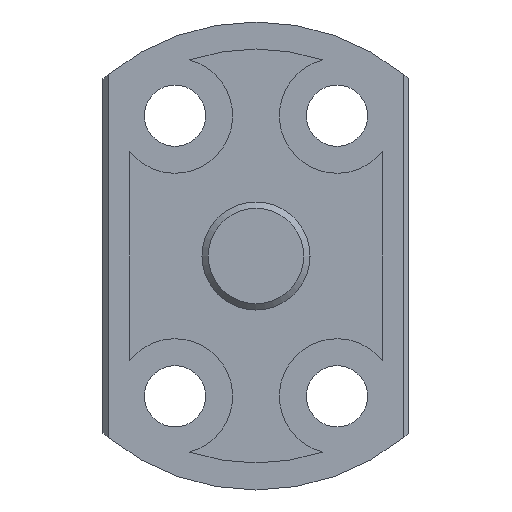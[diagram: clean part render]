
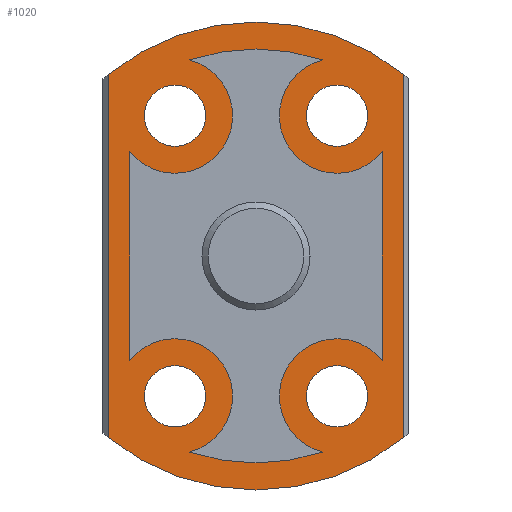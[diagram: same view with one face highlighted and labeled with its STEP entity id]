
A CAD part, left-side view. The second image highlights one B-rep face of the part: STEP entity #1020.
In plain terms, the highlighted planar face has unit normal (-1, 0, 0).
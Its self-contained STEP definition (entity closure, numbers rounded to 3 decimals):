
#238=CARTESIAN_POINT('',(150.0,-8.2,-10.088));
#239=VERTEX_POINT('',#238);
#257=CARTESIAN_POINT('',(150.0,-8.2,10.088));
#258=VERTEX_POINT('',#257);
#266=CARTESIAN_POINT('',(150.0,-8.2,10.088));
#267=DIRECTION('',(0.0,0.0,-1.0));
#268=VECTOR('',#267,20.175);
#269=LINE('',#266,#268);
#270=EDGE_CURVE('',#258,#239,#269,.T.);
#312=CARTESIAN_POINT('',(150.0,8.2,-10.088));
#313=VERTEX_POINT('',#312);
#314=CARTESIAN_POINT('',(150.0,0.0,0.0));
#315=DIRECTION('',(1.0,0.0,0.0));
#316=DIRECTION('',(0.0,1.0,0.0));
#317=AXIS2_PLACEMENT_3D('',#314,#315,#316);
#318=CIRCLE('',#317,13.0);
#319=EDGE_CURVE('',#239,#313,#318,.T.);
#372=CARTESIAN_POINT('',(150.0,8.2,10.088));
#373=VERTEX_POINT('',#372);
#390=CARTESIAN_POINT('',(150.0,8.2,-10.088));
#391=DIRECTION('',(0.0,0.0,1.0));
#392=VECTOR('',#391,20.175);
#393=LINE('',#390,#392);
#394=EDGE_CURVE('',#313,#373,#393,.T.);
#457=CARTESIAN_POINT('',(150.0,0.0,0.0));
#458=DIRECTION('',(1.0,0.0,0.0));
#459=DIRECTION('',(0.0,1.0,0.0));
#460=AXIS2_PLACEMENT_3D('',#457,#458,#459);
#461=CIRCLE('',#460,13.0);
#462=EDGE_CURVE('',#373,#258,#461,.T.);
#573=CARTESIAN_POINT('',(150.0,-3.693,-10.891));
#574=VERTEX_POINT('',#573);
#583=CARTESIAN_POINT('',(150.0,-7.,-5.797));
#584=VERTEX_POINT('',#583);
#585=CARTESIAN_POINT('',(150.0,-4.5,-7.794));
#586=DIRECTION('',(-1.0,0.0,0.0));
#587=DIRECTION('',(0.0,1.0,0.0));
#588=AXIS2_PLACEMENT_3D('',#585,#586,#587);
#589=CIRCLE('',#588,3.2);
#590=EDGE_CURVE('',#584,#574,#589,.T.);
#615=CARTESIAN_POINT('',(150.0,-7.,5.797));
#616=VERTEX_POINT('',#615);
#625=CARTESIAN_POINT('',(150.0,-3.693,10.891));
#626=VERTEX_POINT('',#625);
#627=CARTESIAN_POINT('',(150.0,-4.5,7.794));
#628=DIRECTION('',(-1.0,0.0,0.0));
#629=DIRECTION('',(0.0,1.0,0.0));
#630=AXIS2_PLACEMENT_3D('',#627,#628,#629);
#631=CIRCLE('',#630,3.2);
#632=EDGE_CURVE('',#626,#616,#631,.T.);
#658=CARTESIAN_POINT('',(150.0,3.693,10.891));
#659=VERTEX_POINT('',#658);
#660=CARTESIAN_POINT('',(150.0,0.0,0.0));
#661=DIRECTION('',(1.0,0.0,0.0));
#662=DIRECTION('',(0.0,1.0,0.0));
#663=AXIS2_PLACEMENT_3D('',#660,#661,#662);
#664=CIRCLE('',#663,11.5);
#665=EDGE_CURVE('',#659,#626,#664,.T.);
#692=CARTESIAN_POINT('',(150.0,7.,5.797));
#693=VERTEX_POINT('',#692);
#708=CARTESIAN_POINT('',(150.0,4.5,7.794));
#709=DIRECTION('',(-1.0,0.0,0.0));
#710=DIRECTION('',(0.0,1.0,0.0));
#711=AXIS2_PLACEMENT_3D('',#708,#709,#710);
#712=CIRCLE('',#711,3.2);
#713=EDGE_CURVE('',#693,#659,#712,.T.);
#724=CARTESIAN_POINT('',(150.0,7.,-5.797));
#725=VERTEX_POINT('',#724);
#726=CARTESIAN_POINT('',(150.0,7.,-5.797));
#727=DIRECTION('',(0.0,0.0,1.0));
#728=VECTOR('',#727,11.593);
#729=LINE('',#726,#728);
#730=EDGE_CURVE('',#725,#693,#729,.T.);
#755=CARTESIAN_POINT('',(150.0,3.693,-10.891));
#756=VERTEX_POINT('',#755);
#757=CARTESIAN_POINT('',(150.0,4.5,-7.794));
#758=DIRECTION('',(-1.0,0.0,0.0));
#759=DIRECTION('',(0.0,1.0,0.0));
#760=AXIS2_PLACEMENT_3D('',#757,#758,#759);
#761=CIRCLE('',#760,3.2);
#762=EDGE_CURVE('',#756,#725,#761,.T.);
#788=CARTESIAN_POINT('',(150.0,-7.,5.797));
#789=DIRECTION('',(0.0,0.0,-1.0));
#790=VECTOR('',#789,11.593);
#791=LINE('',#788,#790);
#792=EDGE_CURVE('',#616,#584,#791,.T.);
#845=CARTESIAN_POINT('',(150.0,0.0,0.0));
#846=DIRECTION('',(1.0,0.0,0.0));
#847=DIRECTION('',(0.0,1.0,0.0));
#848=AXIS2_PLACEMENT_3D('',#845,#846,#847);
#849=CIRCLE('',#848,11.5);
#850=EDGE_CURVE('',#574,#756,#849,.T.);
#863=CARTESIAN_POINT('',(150.0,6.2,-7.794));
#864=VERTEX_POINT('',#863);
#865=CARTESIAN_POINT('',(150.0,4.5,-7.794));
#866=DIRECTION('',(1.0,0.0,0.0));
#867=DIRECTION('',(0.0,1.0,0.0));
#868=AXIS2_PLACEMENT_3D('',#865,#866,#867);
#869=CIRCLE('',#868,1.7);
#870=EDGE_CURVE('',#864,#864,#869,.T.);
#883=CARTESIAN_POINT('',(150.0,6.2,7.794));
#884=VERTEX_POINT('',#883);
#885=CARTESIAN_POINT('',(150.0,4.5,7.794));
#886=DIRECTION('',(1.0,0.0,0.0));
#887=DIRECTION('',(0.0,1.0,0.0));
#888=AXIS2_PLACEMENT_3D('',#885,#886,#887);
#889=CIRCLE('',#888,1.7);
#890=EDGE_CURVE('',#884,#884,#889,.T.);
#903=CARTESIAN_POINT('',(150.0,-2.8,7.794));
#904=VERTEX_POINT('',#903);
#905=CARTESIAN_POINT('',(150.0,-4.5,7.794));
#906=DIRECTION('',(1.0,0.0,0.0));
#907=DIRECTION('',(0.0,1.0,0.0));
#908=AXIS2_PLACEMENT_3D('',#905,#906,#907);
#909=CIRCLE('',#908,1.7);
#910=EDGE_CURVE('',#904,#904,#909,.T.);
#923=CARTESIAN_POINT('',(150.0,-2.8,-7.794));
#924=VERTEX_POINT('',#923);
#925=CARTESIAN_POINT('',(150.0,-4.5,-7.794));
#926=DIRECTION('',(1.0,0.0,0.0));
#927=DIRECTION('',(0.0,1.0,0.0));
#928=AXIS2_PLACEMENT_3D('',#925,#926,#927);
#929=CIRCLE('',#928,1.7);
#930=EDGE_CURVE('',#924,#924,#929,.T.);
#987=CARTESIAN_POINT('',(150.0,0.0,0.0));
#988=DIRECTION('',(-1.0,0.0,0.0));
#989=DIRECTION('',(0.0,0.0,1.0));
#990=AXIS2_PLACEMENT_3D('',#987,#988,#989);
#991=PLANE('',#990);
#992=ORIENTED_EDGE('',*,*,#270,.F.);
#993=ORIENTED_EDGE('',*,*,#462,.F.);
#994=ORIENTED_EDGE('',*,*,#394,.F.);
#995=ORIENTED_EDGE('',*,*,#319,.F.);
#996=EDGE_LOOP('',(#992,#993,#994,#995));
#997=FACE_OUTER_BOUND('',#996,.T.);
#998=ORIENTED_EDGE('',*,*,#590,.T.);
#999=ORIENTED_EDGE('',*,*,#850,.T.);
#1000=ORIENTED_EDGE('',*,*,#762,.T.);
#1001=ORIENTED_EDGE('',*,*,#730,.T.);
#1002=ORIENTED_EDGE('',*,*,#713,.T.);
#1003=ORIENTED_EDGE('',*,*,#665,.T.);
#1004=ORIENTED_EDGE('',*,*,#632,.T.);
#1005=ORIENTED_EDGE('',*,*,#792,.T.);
#1006=EDGE_LOOP('',(#998,#999,#1000,#1001,#1002,#1003,#1004,#1005));
#1007=FACE_BOUND('',#1006,.T.);
#1008=ORIENTED_EDGE('',*,*,#870,.T.);
#1009=EDGE_LOOP('',(#1008));
#1010=FACE_BOUND('',#1009,.T.);
#1011=ORIENTED_EDGE('',*,*,#890,.T.);
#1012=EDGE_LOOP('',(#1011));
#1013=FACE_BOUND('',#1012,.T.);
#1014=ORIENTED_EDGE('',*,*,#910,.T.);
#1015=EDGE_LOOP('',(#1014));
#1016=FACE_BOUND('',#1015,.T.);
#1017=ORIENTED_EDGE('',*,*,#930,.T.);
#1018=EDGE_LOOP('',(#1017));
#1019=FACE_BOUND('',#1018,.T.);
#1020=ADVANCED_FACE('',(#997,#1007,#1010,#1013,#1016,#1019),#991,.T.);
